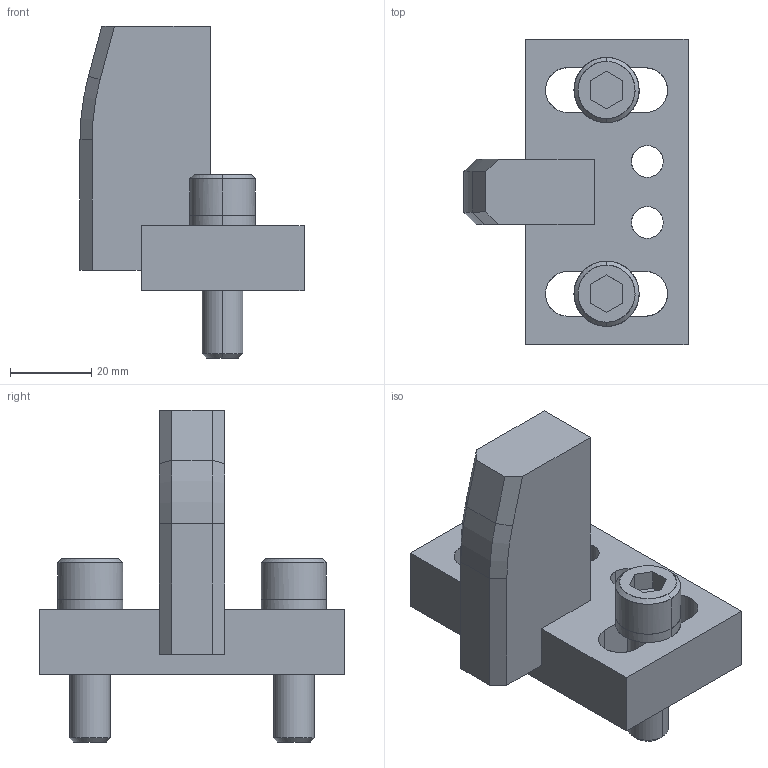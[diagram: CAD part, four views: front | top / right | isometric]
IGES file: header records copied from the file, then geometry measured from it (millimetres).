
Global section: file name: E:\UnigraphicsGraphicData\MISUMI_PRESS-PARTS\IGES\3d_ngwka-65-20-s32-k15-m10_01601_r00.igs; native system: NX V5.0; preprocessor: UGS NX IGES V5.0; author: MISUMI; date: 20110105.162121; units: millimetre
Bounding box: 55 x 75 x 81.5 mm (x, y, z)
Surface area: 23595.1 mm2 (no closed solid volume)
Topology: 0 solids, 0 shells, 104 faces, 664 edges, 664 vertices
Faces by surface type: bspline 104
